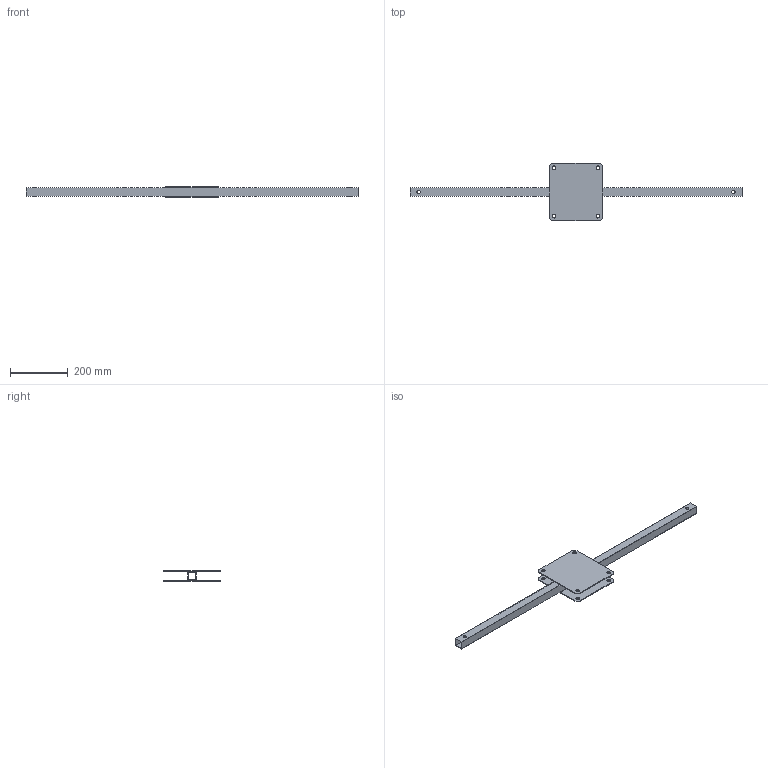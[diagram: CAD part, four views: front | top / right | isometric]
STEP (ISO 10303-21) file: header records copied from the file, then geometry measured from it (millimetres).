
FILE_DESCRIPTION(/* description */ (''),/* implementation_level */ '2;1');
FILE_NAME(/* name */ '2020TOMO-PAV-Barra4_v4.stp',/* time_stamp */ '2022-05-16T13:56:37+02:00',/* author */ (''),/* organization */ (''),/* preprocessor_version */ 'ST-DEVELOPER v18.102',/* originating_system */ 'SIEMENS PLM Software NX 2000',/* authorisation */ '');
FILE_SCHEMA (('AUTOMOTIVE_DESIGN { 1 0 10303 214 3 1 1 1 }'));
Length unit declared in the file: millimetre
Products named in the file (1): turc3144724Fyygp
Bounding box: 1150 x 198.31 x 36 mm (x, y, z)
Volume: 409375.2 mm3; surface area: 409492 mm2
Topology: 3 solids, 3 shells, 42 faces, 110 edges, 74 vertices
Faces by surface type: plane 30, cylinder 12
Full cylindrical faces by diameter (mm): 12 x12
Entity records: 1310 total; most frequent: CARTESIAN_POINT 211, DIRECTION 206, ORIENTED_EDGE 192, EDGE_CURVE 96, EDGE_LOOP 80, VERTEX_POINT 72, LINE 72, VECTOR 72
